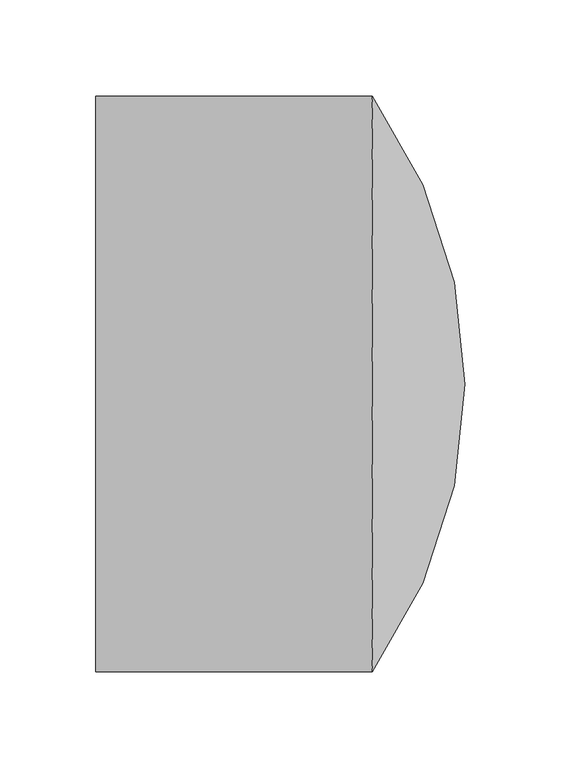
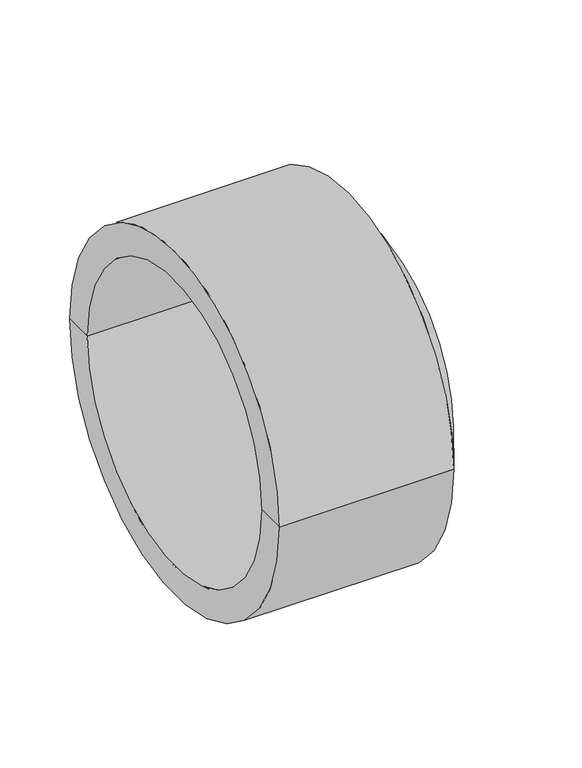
"""IFC4 building model written with IfcOpenShell, lengths in millimetres: pipe fitting geometry, EGB_VASEN_ PPR_Tapon a tope WXB700 : Tapón a tope WXRB700."""

from ifc_helpers import new_model, si_unit, point, frame, origin, place, context, project, spatial, polyline, circle_curve, ellipse_curve, trimmed, source, transform, mapped, element, save
from ifc_brep_helpers import plane_surface, cylinder_surface, revolved_surface, advanced_brep


def pipe_fitting_3963bf8f(model_context):
    return source(origin(), model_context, "Body", "AdvancedBrep", [
        advanced_brep(
        [(0.0, -150.0, 0.0), (0.0, 150.0, 0.0), (144.0, 150.0, 0.0), (144.0, -150.0, 0.0), (0.0, -125.0, 0.0), (0.0, 125.0, 0.0), (130.709989, -125.0, 0.0), (130.709989, 125.0, 0.0), (167.0, 0.0, 0.0), (192.0, 0.0, 0.0)],
        [
            (0, 1, circle_curve(frame((0.0, 0.0, 0.0), z_axis=(1.0, 0.0, 0.0), x_axis=(0.0, 1.0, 0.0)), 150.0)),
            (1, 2),
            (2, 3, circle_curve(frame((144.0, 0.0, 0.0), z_axis=(-1.0, 0.0, 0.0), x_axis=(0.0, 1.0, 0.0)), 150.0)),
            (3, 0),
            (1, 0, circle_curve(frame((0.0, 0.0, 0.0), z_axis=(1.0, 0.0, 0.0), x_axis=(0.0, 1.0, 0.0)), 150.0)),
            (3, 2, circle_curve(frame((144.0, 0.0, 0.0), z_axis=(-1.0, 0.0, 0.0), x_axis=(0.0, 1.0, 0.0)), 150.0)),
            (4, 5, circle_curve(frame((0.0, 0.0, 0.0), z_axis=(1.0, 0.0, 0.0), x_axis=(0.0, 1.0, 0.0)), 125.0)),
            (5, 1),
            (0, 4),
            (5, 4, circle_curve(frame((0.0, 0.0, 0.0), z_axis=(1.0, 0.0, 0.0), x_axis=(0.0, 1.0, 0.0)), 125.0)),
            (6, 7, circle_curve(frame((130.709989, 0.0, 0.0), z_axis=(1.0, 0.0, 0.0), x_axis=(0.0, 1.0, 0.0)), 125.0)),
            (7, 5),
            (4, 6),
            (7, 6, circle_curve(frame((130.709989, 0.0, 0.0), z_axis=(1.0, 0.0, 0.0), x_axis=(0.0, 1.0, 0.0)), 125.0)),
            (8, 7, circle_curve(frame((-65.8895196, 0.1553537, 0.0), z_axis=(0.0, 0.0, 1.0), x_axis=(1.0, 0.0, 0.0)), 232.8895714)),
            (6, 8, circle_curve(frame((-65.8895196, -0.1553537, 0.0), z_axis=(0.0, 0.0, 1.0), x_axis=(1.0, 0.0, 0.0)), 232.8895714)),
            (2, 9, circle_curve(frame((-65.8895196, 0.1553537, 0.0), z_axis=(0.0, 0.0, -1.0), x_axis=(1.0, 0.0, 0.0)), 257.8895664)),
            (9, 3, circle_curve(frame((-65.8895196, -0.1553537, 0.0), z_axis=(0.0, 0.0, -1.0), x_axis=(1.0, 0.0, 0.0)), 257.8895664)),
        ],
        [
            cylinder_surface(frame((8.258615, 0.0, 0.0), z_axis=(-1.0, 0.0, 0.0), x_axis=(0.0, 1.0, 0.0)), 150.0),
            plane_surface(frame((0.0, 0.0, 0.0), z_axis=(-1.0, 0.0, 0.0), x_axis=(0.0, 1.0, 0.0))),
            revolved_surface(polyline([(0.0, 125.0, 0.0), (130.709989, 125.0, 0.0)]), (8.258615, 0.0, 0.0), (-1.0, 0.0, 0.0)),
            revolved_surface(trimmed(ellipse_curve(frame((-65.8895196, 0.1553537, 0.0), z_axis=(0.0, 0.0, -1.0), x_axis=(1.0, 0.0, 0.0)), 232.8895714, 232.8895714), [point((130.709989, 125.0, 0.0))], [point((167.0, 0.0, 0.0))], True, "CARTESIAN"), (8.258615, 0.0, 0.0), (-1.0, 0.0, 0.0)),
            revolved_surface(trimmed(ellipse_curve(frame((-65.8895196, 0.1553537, 0.0), z_axis=(0.0, 0.0, 1.0), x_axis=(1.0, 0.0, 0.0)), 257.8895664, 257.8895664), [point((192.0, 0.0, 0.0))], [point((144.0, 150.0, 0.0))], True, "CARTESIAN"), (8.258615, 0.0, 0.0), (-1.0, 0.0, 0.0)),
        ],
        [
            (0, [[1, 2, 3, 4]]),
            (0, [[5, -4, 6, -2]]),
            (1, [[7, 8, -1, 9]]),
            (1, [[10, -9, -5, -8]]),
            (2, [[11, 12, -7, 13]]),
            (2, [[14, -13, -10, -12]]),
            (3, [[15, -11, 16]]),
            (3, [[-16, -14, -15]]),
            (4, [[-3, 17, 18]]),
            (4, [[-6, -18, -17]]),
        ],
    ),
    ])


if __name__ == "__main__":
    model = new_model("IFC4")
    model_context = context("Model", 3, world=origin())
    ifc_project = project(units=[si_unit("LENGTHUNIT", "METRE", prefix="MILLI")], contexts=[model_context])
    site = spatial("IfcSite", under=ifc_project)
    building = spatial("IfcBuilding", under=site)
    placement = place(None, origin())
    pipe_fitting_shape = pipe_fitting_3963bf8f(model_context)
    element("IfcPipeFitting", 1, ObjectType="EGB_VASEN_ PPR_Tapon a tope WXB700 : Tapón a tope WXRB700", at=placement, inside=building, context=model_context, shape_type="MappedRepresentation", body=[
        mapped(pipe_fitting_shape, transform((0.0, 0.0, 0.0), x_axis=(1.0, 0.0, 0.0), y_axis=(0.0, 1.0, 0.0), z_axis=(0.0, 0.0, 1.0))),
    ])
    save(model, "model.ifc")
